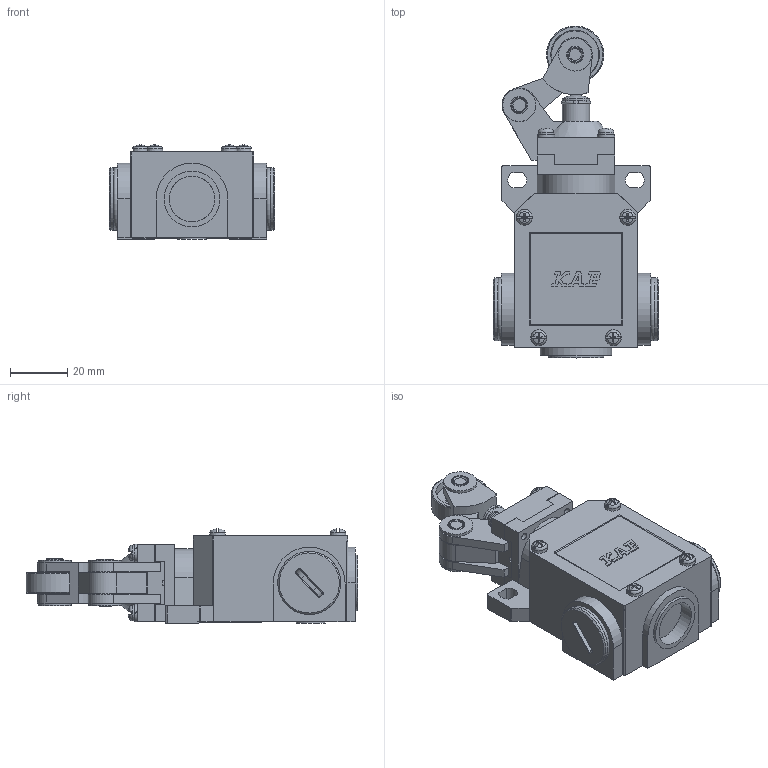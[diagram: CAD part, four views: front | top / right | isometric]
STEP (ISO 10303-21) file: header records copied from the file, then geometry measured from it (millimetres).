
FILE_DESCRIPTION(('Interruptor de Posicao 3 Entradas de Cabos c/ Cabecote Alavanca Superior em Plastico c/ Roldana em Plastico'),'2;1');
FILE_NAME('E:\WorkFolder\Bibl\3DWeb\Serie\LB\kp_lb_lb4$$h_step.stp','2011-10-14T14:21:59',('DIE'),('KAP Componentes Eletricos Ltda.'),'Autodesk Inventor 2011','Autodesk Inventor 2011','Direitos reservados. Proibido reproducao, cedencia ou revelacao de conteudo a terceiros, salvo com autorizacao.');
FILE_SCHEMA(('AUTOMOTIVE_DESIGN { 1 0 10303 214 1 1 1 1 }'));
Length unit declared in the file: millimetre
Products named in the file (3): LB4$$H; LB4$$; LBH
Assembly tree (2 placements, depth 2):
  LB4$$H
    LB4$$
    LBH
Bounding box: 57.6 x 115.82 x 32.88 mm (x, y, z)
Volume: 97711.4 mm3; surface area: 28554.6 mm2
Topology: 2 solids, 21 shells, 896 faces, 2307 edges, 1480 vertices
Faces by surface type: plane 454, cylinder 181, cone 120, torus 66, bspline 50, sphere 25
Full cylindrical faces by diameter (mm): 2.5 x8, 2.6 x12, 2.7 x4, 3 x4, 3.3 x4, 3.5 x8, 3.6 x8, 4.763 x2, 4.8 x4, 8.6 x1, 9.525 x2, 10 x1, 11.5 x6, 14 x2, 16 x1, 17 x2, 17.3 x1, 19.5 x1, 20 x1, 22 x2
Entity records: 30745 total; most frequent: CARTESIAN_POINT 9797, DIRECTION 4124, ORIENTED_EDGE 4122, EDGE_CURVE 2061, AXIS2_PLACEMENT_3D 1577, VERTEX_POINT 1399, EDGE_LOOP 1139, VECTOR 970
